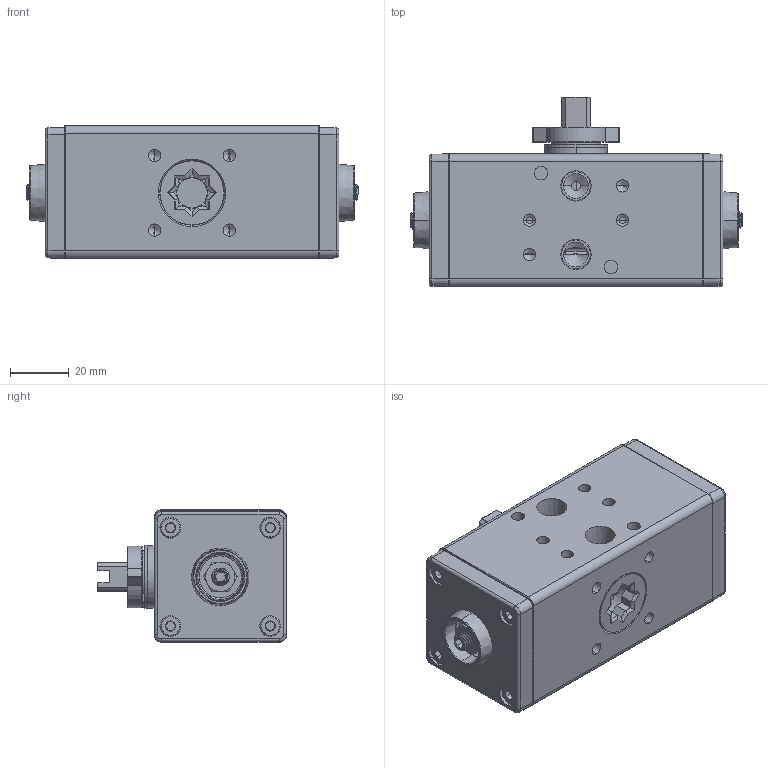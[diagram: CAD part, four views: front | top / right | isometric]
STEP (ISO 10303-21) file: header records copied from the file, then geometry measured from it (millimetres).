
FILE_DESCRIPTION (( 'STEP AP203' ), '1' );
FILE_NAME ('DA32B.STEP', '2022-11-07T21:17:05', ( '' ), ( '' ), 'SwSTEP 2.0', 'SolidWorks 2021', '' );
FILE_SCHEMA (( 'CONFIG_CONTROL_DESIGN' ));
Length unit declared in the file: inch
Products named in the file (11): 13mm-snap-ring; 14mm-nylon-washer; da32b-endcap; INDICATOR; m6x25-metric-stud_93805A320; 32mm-actuator-shaft; m6-nut_91028A661; m4x10mm_91292A116; 14mm-ss-washer; 32mm-b-body; DA32B
Assembly tree (20 placements, depth 2):
  DA32B
    32mm-b-body
    32mm-actuator-shaft
    14mm-nylon-washer
    14mm-ss-washer
    13mm-snap-ring
    da32b-endcap  x2
    m4x10mm_91292A116  x8
    m6x25-metric-stud_93805A320  x2
    m6-nut_91028A661  x2
    INDICATOR
Bounding box: 113.26 x 64.52 x 45.21 mm (x, y, z)
Volume: 141658 mm3; surface area: 54804.7 mm2
Topology: 20 solids, 20 shells, 1494 faces, 3772 edges, 2329 vertices
Faces by surface type: cylinder 858, plane 237, cone 227, torus 118, bspline 38, sphere 16
Entity records: 29999 total; most frequent: CARTESIAN_POINT 12777, DIRECTION 3399, ORIENTED_EDGE 3298, EDGE_CURVE 1649, AXIS2_PLACEMENT_3D 1378, VERTEX_POINT 996, EDGE_LOOP 789, ADVANCED_FACE 712
